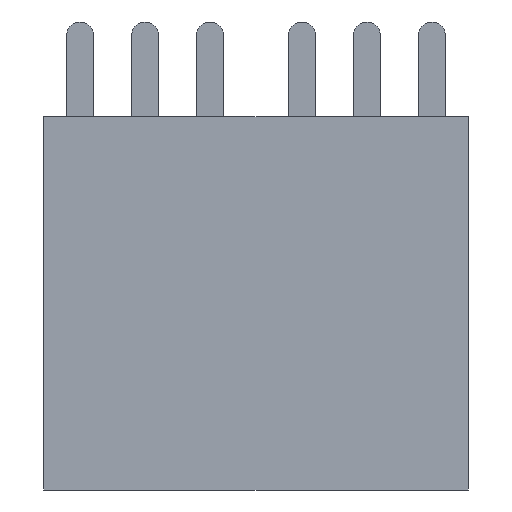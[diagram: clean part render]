
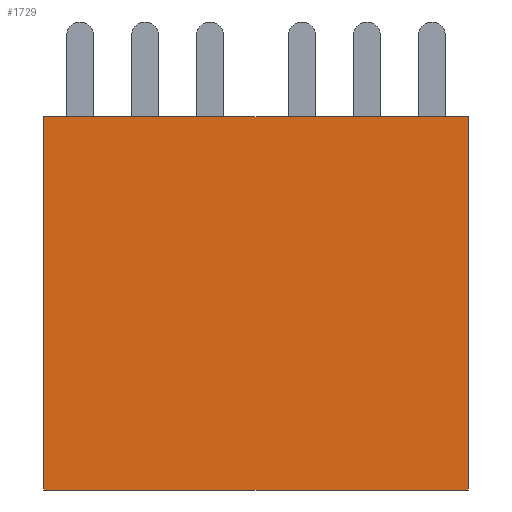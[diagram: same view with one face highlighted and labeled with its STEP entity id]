
A CAD part, left-side view. The second image highlights one B-rep face of the part: STEP entity #1729.
In plain terms, the highlighted planar face has unit normal (-1, 0, 0).
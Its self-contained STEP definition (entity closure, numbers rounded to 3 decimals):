
#188 = PLANE('',#189);
#189 = AXIS2_PLACEMENT_3D('',#190,#191,#192);
#190 = CARTESIAN_POINT('',(7.15,7.85,13.8));
#191 = DIRECTION('',(0.,0.,1.));
#192 = DIRECTION('',(1.,0.,-0.));
#334 = VERTEX_POINT('',#335);
#335 = CARTESIAN_POINT('',(0.,0.,13.8));
#351 = PLANE('',#352);
#352 = AXIS2_PLACEMENT_3D('',#353,#354,#355);
#353 = CARTESIAN_POINT('',(0.,0.,0.));
#354 = DIRECTION('',(0.,1.,0.));
#355 = DIRECTION('',(1.,0.,0.));
#392 = VERTEX_POINT('',#393);
#393 = CARTESIAN_POINT('',(0.,15.7,13.8));
#407 = PLANE('',#408);
#408 = AXIS2_PLACEMENT_3D('',#409,#410,#411);
#409 = CARTESIAN_POINT('',(14.3,15.7,0.));
#410 = DIRECTION('',(0.,-1.,0.));
#411 = DIRECTION('',(-1.,0.,0.));
#419 = EDGE_CURVE('',#392,#334,#420,.T.);
#420 = SURFACE_CURVE('',#421,(#425,#432),.PCURVE_S1.);
#421 = LINE('',#422,#423);
#422 = CARTESIAN_POINT('',(0.,15.7,13.8));
#423 = VECTOR('',#424,1.);
#424 = DIRECTION('',(0.,-1.,0.));
#425 = PCURVE('',#188,#426);
#426 = DEFINITIONAL_REPRESENTATION('',(#427),#431);
#427 = LINE('',#428,#429);
#428 = CARTESIAN_POINT('',(-7.15,7.85));
#429 = VECTOR('',#430,1.);
#430 = DIRECTION('',(0.,-1.));
#431 = ( GEOMETRIC_REPRESENTATION_CONTEXT(2) 
PARAMETRIC_REPRESENTATION_CONTEXT() REPRESENTATION_CONTEXT('2D SPACE',''
  ) );
#432 = PCURVE('',#433,#438);
#433 = PLANE('',#434);
#434 = AXIS2_PLACEMENT_3D('',#435,#436,#437);
#435 = CARTESIAN_POINT('',(0.,15.7,0.));
#436 = DIRECTION('',(1.,0.,0.));
#437 = DIRECTION('',(0.,-1.,0.));
#438 = DEFINITIONAL_REPRESENTATION('',(#439),#443);
#439 = LINE('',#440,#441);
#440 = CARTESIAN_POINT('',(0.,-13.8));
#441 = VECTOR('',#442,1.);
#442 = DIRECTION('',(1.,0.));
#443 = ( GEOMETRIC_REPRESENTATION_CONTEXT(2) 
PARAMETRIC_REPRESENTATION_CONTEXT() REPRESENTATION_CONTEXT('2D SPACE',''
  ) );
#1657 = EDGE_CURVE('',#1658,#334,#1660,.T.);
#1658 = VERTEX_POINT('',#1659);
#1659 = CARTESIAN_POINT('',(0.,0.,0.));
#1660 = SURFACE_CURVE('',#1661,(#1665,#1672),.PCURVE_S1.);
#1661 = LINE('',#1662,#1663);
#1662 = CARTESIAN_POINT('',(0.,0.,0.));
#1663 = VECTOR('',#1664,1.);
#1664 = DIRECTION('',(0.,0.,1.));
#1665 = PCURVE('',#351,#1666);
#1666 = DEFINITIONAL_REPRESENTATION('',(#1667),#1671);
#1667 = LINE('',#1668,#1669);
#1668 = CARTESIAN_POINT('',(0.,0.));
#1669 = VECTOR('',#1670,1.);
#1670 = DIRECTION('',(0.,-1.));
#1671 = ( GEOMETRIC_REPRESENTATION_CONTEXT(2) 
PARAMETRIC_REPRESENTATION_CONTEXT() REPRESENTATION_CONTEXT('2D SPACE',''
  ) );
#1672 = PCURVE('',#433,#1673);
#1673 = DEFINITIONAL_REPRESENTATION('',(#1674),#1678);
#1674 = LINE('',#1675,#1676);
#1675 = CARTESIAN_POINT('',(15.7,0.));
#1676 = VECTOR('',#1677,1.);
#1677 = DIRECTION('',(0.,-1.));
#1678 = ( GEOMETRIC_REPRESENTATION_CONTEXT(2) 
PARAMETRIC_REPRESENTATION_CONTEXT() REPRESENTATION_CONTEXT('2D SPACE',''
  ) );
#1718 = PLANE('',#1719);
#1719 = AXIS2_PLACEMENT_3D('',#1720,#1721,#1722);
#1720 = CARTESIAN_POINT('',(7.15,7.85,0.));
#1721 = DIRECTION('',(0.,0.,1.));
#1722 = DIRECTION('',(1.,0.,-0.));
#1729 = ADVANCED_FACE('',(#1730),#433,.F.);
#1730 = FACE_BOUND('',#1731,.F.);
#1731 = EDGE_LOOP('',(#1732,#1755,#1756,#1757));
#1732 = ORIENTED_EDGE('',*,*,#1733,.T.);
#1733 = EDGE_CURVE('',#1734,#392,#1736,.T.);
#1734 = VERTEX_POINT('',#1735);
#1735 = CARTESIAN_POINT('',(0.,15.7,0.));
#1736 = SURFACE_CURVE('',#1737,(#1741,#1748),.PCURVE_S1.);
#1737 = LINE('',#1738,#1739);
#1738 = CARTESIAN_POINT('',(0.,15.7,0.));
#1739 = VECTOR('',#1740,1.);
#1740 = DIRECTION('',(0.,0.,1.));
#1741 = PCURVE('',#433,#1742);
#1742 = DEFINITIONAL_REPRESENTATION('',(#1743),#1747);
#1743 = LINE('',#1744,#1745);
#1744 = CARTESIAN_POINT('',(0.,0.));
#1745 = VECTOR('',#1746,1.);
#1746 = DIRECTION('',(0.,-1.));
#1747 = ( GEOMETRIC_REPRESENTATION_CONTEXT(2) 
PARAMETRIC_REPRESENTATION_CONTEXT() REPRESENTATION_CONTEXT('2D SPACE',''
  ) );
#1748 = PCURVE('',#407,#1749);
#1749 = DEFINITIONAL_REPRESENTATION('',(#1750),#1754);
#1750 = LINE('',#1751,#1752);
#1751 = CARTESIAN_POINT('',(14.3,0.));
#1752 = VECTOR('',#1753,1.);
#1753 = DIRECTION('',(0.,-1.));
#1754 = ( GEOMETRIC_REPRESENTATION_CONTEXT(2) 
PARAMETRIC_REPRESENTATION_CONTEXT() REPRESENTATION_CONTEXT('2D SPACE',''
  ) );
#1755 = ORIENTED_EDGE('',*,*,#419,.T.);
#1756 = ORIENTED_EDGE('',*,*,#1657,.F.);
#1757 = ORIENTED_EDGE('',*,*,#1758,.F.);
#1758 = EDGE_CURVE('',#1734,#1658,#1759,.T.);
#1759 = SURFACE_CURVE('',#1760,(#1764,#1771),.PCURVE_S1.);
#1760 = LINE('',#1761,#1762);
#1761 = CARTESIAN_POINT('',(0.,15.7,0.));
#1762 = VECTOR('',#1763,1.);
#1763 = DIRECTION('',(0.,-1.,0.));
#1764 = PCURVE('',#433,#1765);
#1765 = DEFINITIONAL_REPRESENTATION('',(#1766),#1770);
#1766 = LINE('',#1767,#1768);
#1767 = CARTESIAN_POINT('',(0.,0.));
#1768 = VECTOR('',#1769,1.);
#1769 = DIRECTION('',(1.,0.));
#1770 = ( GEOMETRIC_REPRESENTATION_CONTEXT(2) 
PARAMETRIC_REPRESENTATION_CONTEXT() REPRESENTATION_CONTEXT('2D SPACE',''
  ) );
#1771 = PCURVE('',#1718,#1772);
#1772 = DEFINITIONAL_REPRESENTATION('',(#1773),#1777);
#1773 = LINE('',#1774,#1775);
#1774 = CARTESIAN_POINT('',(-7.15,7.85));
#1775 = VECTOR('',#1776,1.);
#1776 = DIRECTION('',(0.,-1.));
#1777 = ( GEOMETRIC_REPRESENTATION_CONTEXT(2) 
PARAMETRIC_REPRESENTATION_CONTEXT() REPRESENTATION_CONTEXT('2D SPACE',''
  ) );
